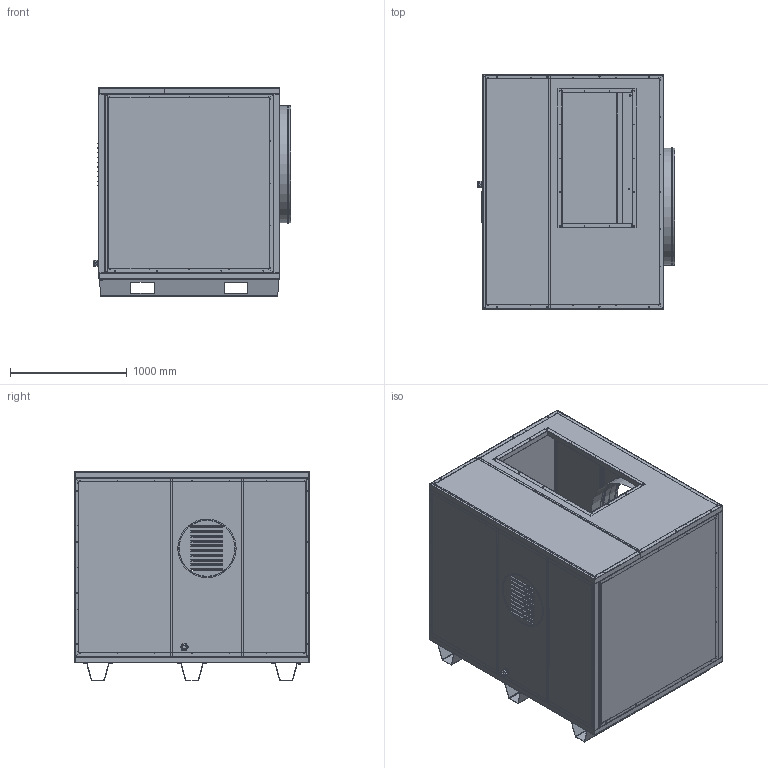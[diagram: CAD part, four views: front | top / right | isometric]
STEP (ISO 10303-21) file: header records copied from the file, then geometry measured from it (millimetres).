
FILE_DESCRIPTION(/* description */ (''),/* implementation_level */ '2;1');
FILE_NAME(/* name */ 'Component50.step',/* time_stamp */ '2024-09-09T11:19:06+02:00',/* author */ (''),/* organization */ (''),/* preprocessor_version */ 'ST-DEVELOPER v20',/* originating_system */ 'Autodesk Translation Framework v13.20.0.188',/* authorisation */ '');
FILE_SCHEMA (('AUTOMOTIVE_DESIGN { 1 0 10303 214 3 1 1 }'));
Products named in the file (1): FusionComponent
Bounding box: 1695.23 x 2008 x 1788.3 mm (x, y, z)
Volume: 477007146.1 mm3; surface area: 47119078.3 mm2
Topology: 1 solids, 27 shells, 2227 faces, 5554 edges, 3519 vertices
Faces by surface type: plane 1465, cylinder 693, bspline 50, cone 13, torus 6
Full cylindrical faces by diameter (mm): 4.8 x1, 5 x281, 6.376 x12, 6.779 x25, 8 x8, 8.6 x1, 9 x92, 9.7 x2, 12.5 x6, 15.8 x1, 32.5 x1, 40 x1, 47 x3, 48 x1, 53 x1, 996 x2, 998 x5, 998.285 x2, 999.967 x4, 1000 x6, 1001 x2, 1004 x1, 1008.953 x2, 1032 x1
Entity records: 72329 total; most frequent: CARTESIAN_POINT 17524, DIRECTION 11123, ORIENTED_EDGE 11108, EDGE_CURVE 5554, LINE 3959, VECTOR 3959, AXIS2_PLACEMENT_3D 3582, VERTEX_POINT 3519
